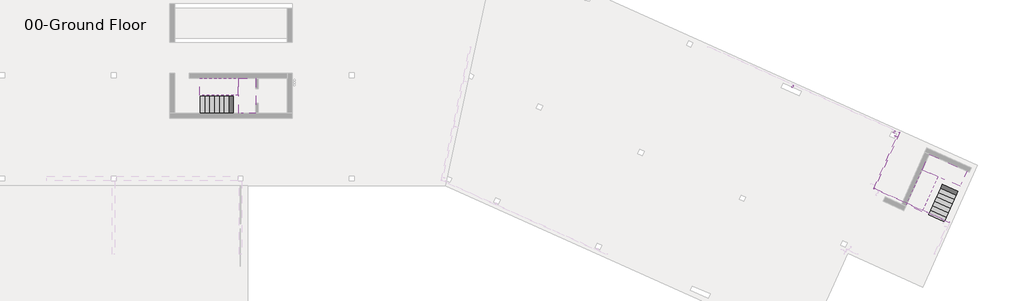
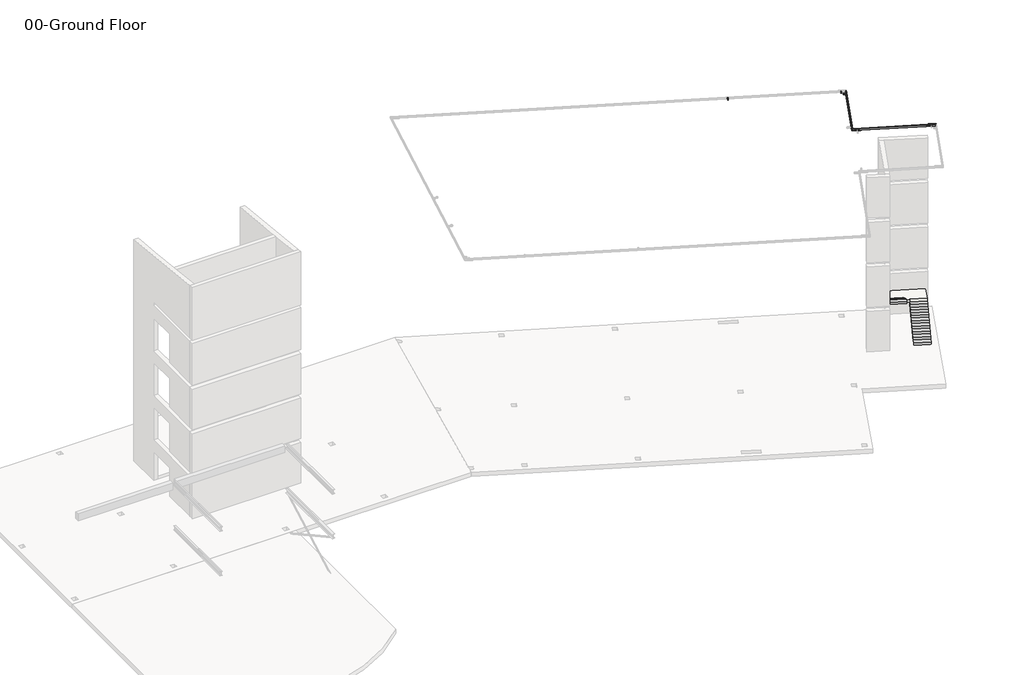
# One storey, part 5 of 5: 5 beams, 4 stair flights, 2 slabs.
"""IFC4 building model written with IfcOpenShell, lengths in millimetres."""

from ifc_helpers import new_model, si_unit, frame, origin, place, context, project, spatial, polyline, ellipse_curve, faceted_brep, transform, mapped, element, save
from ifc_brep_helpers import plane_surface, cylinder_surface, revolved_surface, advanced_brep
from components import hss_hollow_structural_section_hss3x2x1_8_a8fac2c2, hss_hollow_structural_section_hss3x2x1_8_4cf7df58, hss_hollow_structural_section_hss3x2x1_8_9bae5ac0

model = new_model("IFC4")

# Units and contexts
model_context = context("Model", 3, world=origin())
ifc_project = project(units=[si_unit("LENGTHUNIT", "METRE", prefix="MILLI")], contexts=[model_context])

# Site, building, storey
site = spatial("IfcSite", under=ifc_project)
building = spatial("IfcBuilding", under=site)
storey = spatial("IfcBuildingStorey", under=building, Name="00-Ground Floor", Elevation=0.0)

# Beams
placement = place(None, origin())
hss_hollow_structural_section_hss3x2x1_8_shape = hss_hollow_structural_section_hss3x2x1_8_a8fac2c2(model_context)
element("IfcBeam", 1, ObjectType="HSS-Hollow Structural Section : HSS3X2X1/8", at=placement, inside=storey, context=model_context, shape_type="MappedRepresentation", body=[
    mapped(hss_hollow_structural_section_hss3x2x1_8_shape, transform((56149.9496224, -11115.2429491, 16658.2302755), x_axis=(0.40919454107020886, 0.9109449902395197, 0.05233595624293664), y_axis=(-0.9121951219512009, 0.40975609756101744, 0.0), z_axis=(-0.021444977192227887, -0.04774060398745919, 0.9986295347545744))),
])
hss_hollow_structural_section_hss3x2x1_8_2_shape = hss_hollow_structural_section_hss3x2x1_8_4cf7df58(model_context)
element("IfcBeam", 2, ObjectType="HSS-Hollow Structural Section : HSS3X2X1/8", at=placement, inside=storey, context=model_context, shape_type="MappedRepresentation", body=[
    mapped(hss_hollow_structural_section_hss3x2x1_8_2_shape, transform((49758.4300196, -8235.2687316, 16658.6565762), x_axis=(0.40919454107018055, 0.9109449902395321, 0.052335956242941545), y_axis=(-0.9121951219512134, 0.40975609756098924, 0.0), z_axis=(-0.021444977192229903, -0.047740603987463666, 0.998629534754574))),
])
hss_hollow_structural_section_hss3x2x1_8_3_shape = hss_hollow_structural_section_hss3x2x1_8_9bae5ac0(model_context)
element("IfcBeam", 3, ObjectType="HSS-Hollow Structural Section : HSS3X2X1/8", at=placement, inside=storey, context=model_context, shape_type="MappedRepresentation", body=[
    mapped(hss_hollow_structural_section_hss3x2x1_8_3_shape, transform((56223.3592947, -11323.7476071, 16649.8389058), x_axis=(0.9121951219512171, -0.4097560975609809, 0.0), y_axis=(0.40919454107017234, 0.9109449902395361, 0.052335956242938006), z_axis=(-0.021444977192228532, -0.0477406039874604, 0.9986295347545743))),
])
element("IfcBeam", 4, ObjectType="HSS-Hollow Structural Section : HSS5X2X1/8", at=placement, inside=storey, context=model_context, shape_type="AdvancedBrep", body=[
    advanced_brep(
    [(54925.8991442, -14631.6764659, 16501.9897587), (54933.8122002, -14628.4417342, 16496.4134399), (56526.4681746, -11082.8861722, 16700.1140396), (56518.5551186, -11086.120904, 16705.6903584), (54874.3459194, -14651.2300499, 16499.9479028), (56467.0018937, -11105.6744879, 16703.6485024), (54866.6856053, -14653.90213, 16493.7547733), (56459.3415797, -11108.346568, 16697.455373), (54869.1563755, -14648.4017249, 16378.6982707), (56461.8123499, -11102.8461629, 16582.3988703), (54877.0694315, -14645.1669932, 16373.1219519), (56469.7254058, -11099.6114312, 16576.8225515), (54928.6226563, -14625.6134092, 16375.1638078), (56521.2786307, -11080.0578473, 16578.8644074), (54936.2829704, -14622.9413292, 16381.3569373), (56528.9389447, -11077.3857672, 16585.0575369), (54925.9623297, -14631.535803, 16499.0473967), (54874.4091048, -14651.089387, 16497.0055407), (56467.0650792, -11105.533825, 16700.7061404), (56518.6183041, -11085.980241, 16702.7479963), (54929.9188577, -14629.9184372, 16496.2592373), (56522.5748321, -11084.3628752, 16699.9598369), (54932.3896279, -14624.4180321, 16381.2027346), (56525.0456022, -11078.8624701, 16584.9033342), (54928.5594708, -14625.7540722, 16378.1061699), (56521.2154452, -11080.1985102, 16581.8067695), (54877.006246, -14645.3076561, 16376.0643139), (56469.6622203, -11099.7520941, 16579.7649136), (54873.049718, -14646.925022, 16378.8524733), (56465.7056924, -11101.36946, 16582.553073), (54870.5789478, -14652.425427, 16493.908976), (56463.2349222, -11106.869865, 16697.6095756)],
    [
        (0, 1, ellipse_curve(frame((54926.0255152, -14631.3951401, 16496.1050346), z_axis=(-0.3556751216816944, 0.93387669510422, 0.0370071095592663), x_axis=(-0.934363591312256, -0.3543940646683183, -0.037007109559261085)), 8.3336777, 5.8928)),
        (1, 2),
        (2, 3, ellipse_curve(frame((56518.6814896, -11085.8395781, 16699.8056342), z_axis=(0.35567512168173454, -0.9338766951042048, -0.037007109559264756), x_axis=(-0.9343635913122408, -0.3543940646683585, -0.03700710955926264)), 8.3336777, 5.8928)),
        (3, 0),
        (4, 0),
        (3, 5),
        (5, 4),
        (6, 4, ellipse_curve(frame((54874.4722903, -14650.948724, 16494.0631787), z_axis=(-0.3556751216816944, 0.93387669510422, 0.0370071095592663), x_axis=(-0.934363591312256, -0.3543940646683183, -0.037007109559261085)), 8.3336777, 5.8928)),
        (5, 7, ellipse_curve(frame((56467.1282647, -11105.3931621, 16697.7637783), z_axis=(0.35567512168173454, -0.9338766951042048, -0.037007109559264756), x_axis=(-0.9343635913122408, -0.3543940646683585, -0.03700710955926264)), 8.3336777, 5.8928)),
        (7, 6),
        (8, 6),
        (7, 9),
        (9, 8),
        (10, 8, ellipse_curve(frame((54876.9430605, -14645.448319, 16379.006676), z_axis=(-0.3556751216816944, 0.93387669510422, 0.0370071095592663), x_axis=(-0.934363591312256, -0.3543940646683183, -0.037007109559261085)), 8.3336777, 5.8928)),
        (9, 11, ellipse_curve(frame((56469.5990349, -11099.892757, 16582.7072756), z_axis=(0.35567512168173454, -0.9338766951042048, -0.037007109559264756), x_axis=(-0.9343635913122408, -0.3543940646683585, -0.03700710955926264)), 8.3336777, 5.8928)),
        (11, 10),
        (12, 10),
        (11, 13),
        (13, 12),
        (14, 12, ellipse_curve(frame((54928.4962854, -14625.8947351, 16381.0485319), z_axis=(-0.3556751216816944, 0.93387669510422, 0.0370071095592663), x_axis=(-0.934363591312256, -0.3543940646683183, -0.037007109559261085)), 8.3336777, 5.8928)),
        (13, 15, ellipse_curve(frame((56521.1522597, -11080.3391731, 16584.7491316), z_axis=(0.35567512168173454, -0.9338766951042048, -0.037007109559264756), x_axis=(-0.9343635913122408, -0.3543940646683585, -0.03700710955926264)), 8.3336777, 5.8928)),
        (15, 14),
        (1, 14),
        (15, 2),
        (16, 17),
        (17, 18),
        (18, 19),
        (19, 16),
        (20, 16, ellipse_curve(frame((54926.0255152, -14631.3951401, 16496.1050346), z_axis=(0.3556751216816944, -0.93387669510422, -0.0370071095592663), x_axis=(0.934363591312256, 0.3543940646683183, 0.037007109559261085)), 4.1668388, 2.9464)),
        (19, 21, ellipse_curve(frame((56518.6814896, -11085.8395781, 16699.8056342), z_axis=(-0.35567512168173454, 0.9338766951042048, 0.037007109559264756), x_axis=(0.9343635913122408, 0.3543940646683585, 0.03700710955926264)), 4.1668388, 2.9464)),
        (21, 20),
        (22, 20),
        (21, 23),
        (23, 22),
        (24, 22, ellipse_curve(frame((54928.4962854, -14625.8947351, 16381.0485319), z_axis=(0.3556751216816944, -0.93387669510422, -0.0370071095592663), x_axis=(0.934363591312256, 0.3543940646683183, 0.037007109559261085)), 4.1668388, 2.9464)),
        (23, 25, ellipse_curve(frame((56521.1522597, -11080.3391731, 16584.7491316), z_axis=(-0.35567512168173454, 0.9338766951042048, 0.037007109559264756), x_axis=(0.9343635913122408, 0.3543940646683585, 0.03700710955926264)), 4.1668388, 2.9464)),
        (25, 24),
        (26, 24),
        (25, 27),
        (27, 26),
        (28, 26, ellipse_curve(frame((54876.9430605, -14645.448319, 16379.006676), z_axis=(0.3556751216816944, -0.93387669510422, -0.0370071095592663), x_axis=(0.934363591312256, 0.3543940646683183, 0.037007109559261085)), 4.1668388, 2.9464)),
        (27, 29, ellipse_curve(frame((56469.5990349, -11099.892757, 16582.7072756), z_axis=(-0.35567512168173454, 0.9338766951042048, 0.037007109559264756), x_axis=(0.9343635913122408, 0.3543940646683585, 0.03700710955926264)), 4.1668388, 2.9464)),
        (29, 28),
        (30, 28),
        (29, 31),
        (31, 30),
        (17, 30, ellipse_curve(frame((54874.4722903, -14650.948724, 16494.0631787), z_axis=(0.3556751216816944, -0.93387669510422, -0.0370071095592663), x_axis=(0.934363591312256, 0.3543940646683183, 0.037007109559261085)), 4.1668388, 2.9464)),
        (31, 18, ellipse_curve(frame((56467.1282647, -11105.3931621, 16697.7637783), z_axis=(-0.35567512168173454, 0.9338766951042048, 0.037007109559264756), x_axis=(0.9343635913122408, 0.3543940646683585, 0.03700710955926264)), 4.1668388, 2.9464)),
    ],
    [
        cylinder_surface(frame((54918.0432754, -14649.1651262, 16495.0841066), z_axis=(-0.40919454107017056, -0.9109449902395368, -0.05233595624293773), x_axis=(-0.9121951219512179, 0.40975609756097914, 0.0)), 5.8928),
        plane_surface(frame((54917.9169045, -14649.4464521, 16500.9688308), z_axis=(-0.021444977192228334, -0.04774060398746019, 0.9986295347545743), x_axis=(0.4091945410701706, 0.9109449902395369, 0.052335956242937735))),
        cylinder_surface(frame((54882.4545301, -14633.1787379, 16495.0841066), z_axis=(-0.40919454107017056, -0.9109449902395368, -0.05233595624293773), x_axis=(-0.9121951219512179, 0.40975609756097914, 0.0)), 5.8928),
        plane_surface(frame((54877.0791467, -14630.7641272, 16495.0841066), z_axis=(-0.9121951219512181, 0.40975609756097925, 0.0), x_axis=(0.4091945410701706, 0.9109449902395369, 0.052335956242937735))),
        cylinder_surface(frame((54884.9253002, -14627.6783329, 16380.027604), z_axis=(-0.40919454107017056, -0.9109449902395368, -0.05233595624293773), x_axis=(-0.9121951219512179, 0.40975609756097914, 0.0)), 5.8928),
        plane_surface(frame((54885.0516712, -14627.3970071, 16374.1428798), z_axis=(0.021444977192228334, 0.04774060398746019, -0.9986295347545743), x_axis=(0.4091945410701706, 0.9109449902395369, 0.052335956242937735))),
        cylinder_surface(frame((54920.5140456, -14643.6647212, 16380.027604), z_axis=(-0.40919454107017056, -0.9109449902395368, -0.05233595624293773), x_axis=(-0.9121951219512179, 0.40975609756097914, 0.0)), 5.8928),
        plane_surface(frame((54925.889429, -14646.0793319, 16380.027604), z_axis=(0.9121951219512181, -0.40975609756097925, 0.0), x_axis=(0.4091945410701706, 0.9109449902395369, 0.052335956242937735))),
        plane_surface(frame((54882.3913446, -14633.3194009, 16498.0264687), z_axis=(0.021444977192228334, 0.04774060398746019, -0.9986295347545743), x_axis=(0.4091945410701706, 0.9109449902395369, 0.052335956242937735))),
        revolved_surface(polyline([(56517.19944861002, -11081.948264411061, 16699.959836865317), (54922.13217266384, -14632.8718430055, 16495.950831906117)]), (54918.0432754, -14649.1651262, 16495.0841066), (0.40919454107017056, 0.9109449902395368, 0.05233595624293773)),
        plane_surface(frame((54920.7309671, -14650.3724316, 16495.0841066), z_axis=(-0.9121951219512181, 0.40975609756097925, 0.0), x_axis=(0.4091945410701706, 0.9109449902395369, 0.052335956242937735))),
        revolved_surface(polyline([(56519.670218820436, -11076.447859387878, 16584.903334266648), (54924.6029428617, -14627.37143801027, 16380.894329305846)]), (54920.5140456, -14643.6647212, 16380.027604), (0.40919454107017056, 0.9109449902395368, 0.05233595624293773)),
        plane_surface(frame((54920.5772311, -14643.5240583, 16377.0852419), z_axis=(-0.021444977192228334, -0.04774060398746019, 0.9986295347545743), x_axis=(0.4091945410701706, 0.9109449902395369, 0.052335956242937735))),
        revolved_surface(polyline([(56468.11699391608, -11096.001443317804, 16582.86147833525), (54873.0497179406, -14646.92502197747, 16378.852473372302)]), (54884.9253002, -14627.6783329, 16380.027604), (0.40919454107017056, 0.9109449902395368, 0.05233595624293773)),
        plane_surface(frame((54882.2376085, -14626.4710275, 16380.027604), z_axis=(0.9121951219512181, -0.40975609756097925, 0.0), x_axis=(0.4091945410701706, 0.9109449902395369, 0.052335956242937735))),
        revolved_surface(polyline([(56465.64622376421, -11101.501848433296, 16697.91798092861), (54870.578947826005, -14652.425427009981, 16493.908975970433)]), (54882.4545301, -14633.1787379, 16495.0841066), (0.40919454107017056, 0.9109449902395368, 0.05233595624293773)),
        plane_surface(frame((56457.5811015, -11112.2657278, 16779.4356677), z_axis=(-0.3556751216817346, 0.933876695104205, 0.03700710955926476), x_axis=(0.9346096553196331, 0.35539618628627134, 0.014083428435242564))),
        plane_surface(frame((54932.051722, -14632.3608941, 16578.3937346), z_axis=(0.35567512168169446, -0.9338766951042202, -0.03700710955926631), x_axis=(0.9346096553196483, 0.35539618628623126, 0.01408342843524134))),
    ],
    [
        (0, [[1, 2, 3, 4]]),
        (1, [[5, -4, 6, 7]]),
        (2, [[8, -7, 9, 10]]),
        (3, [[11, -10, 12, 13]]),
        (4, [[14, -13, 15, 16]]),
        (5, [[17, -16, 18, 19]]),
        (6, [[20, -19, 21, 22]]),
        (7, [[23, -22, 24, -2]]),
        (8, [[25, 26, 27, 28]]),
        (9, [[29, -28, 30, 31]]),
        (10, [[32, -31, 33, 34]]),
        (11, [[35, -34, 36, 37]]),
        (12, [[38, -37, 39, 40]]),
        (13, [[41, -40, 42, 43]]),
        (14, [[44, -43, 45, 46]]),
        (15, [[47, -46, 48, -26]]),
        (16, [[-24, -21, -18, -15, -12, -9, -6, -3], [-48, -45, -42, -39, -36, -33, -30, -27]]),
        (17, [[-1, -5, -8, -11, -14, -17, -20, -23], [-25, -29, -32, -35, -38, -41, -44, -47]]),
    ],
),
])
element("IfcBeam", 5, ObjectType="HSS-Hollow Structural Section : HSS5X2X1/8", at=placement, inside=storey, context=model_context, shape_type="AdvancedBrep", body=[
    advanced_brep(
    [(59652.5293881, -16754.8686611, 16501.9897587), (59660.4424441, -16751.6339293, 16496.4134399), (54933.8122002, -14628.4417342, 16496.4134399), (54925.8991442, -14631.6764659, 16501.9897587), (59600.9761633, -16774.422245, 16499.9479028), (54874.3459194, -14651.2300499, 16499.9479028), (59593.3158492, -16777.0943251, 16493.7547733), (54866.6856053, -14653.90213, 16493.7547733), (59595.7866194, -16771.59392, 16378.6982707), (54869.1563755, -14648.4017249, 16378.6982707), (59603.6996754, -16768.3591883, 16373.1219519), (54877.0694315, -14645.1669932, 16373.1219519), (59655.2529002, -16748.8056044, 16375.1638078), (54928.6226563, -14625.6134092, 16375.1638078), (59662.9132143, -16746.1335243, 16381.3569373), (54936.2829704, -14622.9413292, 16381.3569373), (59652.5925736, -16754.7279982, 16499.0473967), (59601.0393487, -16774.2815821, 16497.0055407), (54874.4091048, -14651.089387, 16497.0055407), (54925.9623297, -14631.535803, 16499.0473967), (59656.5491016, -16753.1106323, 16496.2592373), (54929.9188577, -14629.9184372, 16496.2592373), (59659.0198718, -16747.6102272, 16381.2027346), (54932.3896279, -14624.4180321, 16381.2027346), (59655.1897147, -16748.9462673, 16378.1061699), (54928.5594708, -14625.7540722, 16378.1061699), (59603.6364899, -16768.4998512, 16376.0643139), (54877.006246, -14645.3076561, 16376.0643139), (59599.6799619, -16770.1172171, 16378.8524733), (54873.049718, -14646.925022, 16378.8524733), (59597.2091917, -16775.6176221, 16493.908976), (54870.5789478, -14652.425427, 16493.908976)],
    [
        (0, 1, ellipse_curve(frame((59652.6557591, -16754.5873352, 16496.1050346), z_axis=(-0.35567512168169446, 0.93387669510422, 0.03700710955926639), x_axis=(0.9343635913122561, 0.35439406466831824, 0.037007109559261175)), 8.3336777, 5.8928)),
        (1, 2),
        (2, 3, ellipse_curve(frame((54926.0255152, -14631.3951401, 16496.1050346), z_axis=(0.3556751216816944, -0.93387669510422, -0.0370071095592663), x_axis=(0.9343635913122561, 0.35439406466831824, 0.037007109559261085)), 8.3336777, 5.8928)),
        (3, 0),
        (4, 0),
        (3, 5),
        (5, 4),
        (6, 4, ellipse_curve(frame((59601.1025342, -16774.1409192, 16494.0631787), z_axis=(-0.35567512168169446, 0.93387669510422, 0.03700710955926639), x_axis=(0.9343635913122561, 0.35439406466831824, 0.037007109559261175)), 8.3336777, 5.8928)),
        (5, 7, ellipse_curve(frame((54874.4722903, -14650.948724, 16494.0631787), z_axis=(0.3556751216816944, -0.93387669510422, -0.0370071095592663), x_axis=(0.9343635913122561, 0.35439406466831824, 0.037007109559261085)), 8.3336777, 5.8928)),
        (7, 6),
        (8, 6),
        (7, 9),
        (9, 8),
        (10, 8, ellipse_curve(frame((59603.5733044, -16768.6405141, 16379.006676), z_axis=(-0.35567512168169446, 0.93387669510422, 0.03700710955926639), x_axis=(0.9343635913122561, 0.35439406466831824, 0.037007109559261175)), 8.3336777, 5.8928)),
        (9, 11, ellipse_curve(frame((54876.9430605, -14645.448319, 16379.006676), z_axis=(0.3556751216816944, -0.93387669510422, -0.0370071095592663), x_axis=(0.9343635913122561, 0.35439406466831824, 0.037007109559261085)), 8.3336777, 5.8928)),
        (11, 10),
        (12, 10),
        (11, 13),
        (13, 12),
        (14, 12, ellipse_curve(frame((59655.1265293, -16749.0869302, 16381.0485319), z_axis=(-0.35567512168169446, 0.93387669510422, 0.03700710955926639), x_axis=(0.9343635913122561, 0.35439406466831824, 0.037007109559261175)), 8.3336777, 5.8928)),
        (13, 15, ellipse_curve(frame((54928.4962854, -14625.8947351, 16381.0485319), z_axis=(0.3556751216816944, -0.93387669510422, -0.0370071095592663), x_axis=(0.9343635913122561, 0.35439406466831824, 0.037007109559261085)), 8.3336777, 5.8928)),
        (15, 14),
        (1, 14),
        (15, 2),
        (16, 17),
        (17, 18),
        (18, 19),
        (19, 16),
        (20, 16, ellipse_curve(frame((59652.6557591, -16754.5873352, 16496.1050346), z_axis=(0.35567512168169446, -0.93387669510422, -0.03700710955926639), x_axis=(-0.9343635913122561, -0.35439406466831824, -0.037007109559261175)), 4.1668388, 2.9464)),
        (19, 21, ellipse_curve(frame((54926.0255152, -14631.3951401, 16496.1050346), z_axis=(-0.3556751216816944, 0.93387669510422, 0.0370071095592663), x_axis=(-0.9343635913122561, -0.35439406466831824, -0.037007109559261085)), 4.1668388, 2.9464)),
        (21, 20),
        (22, 20),
        (21, 23),
        (23, 22),
        (24, 22, ellipse_curve(frame((59655.1265293, -16749.0869302, 16381.0485319), z_axis=(0.35567512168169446, -0.93387669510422, -0.03700710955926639), x_axis=(-0.9343635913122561, -0.35439406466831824, -0.037007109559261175)), 4.1668388, 2.9464)),
        (23, 25, ellipse_curve(frame((54928.4962854, -14625.8947351, 16381.0485319), z_axis=(-0.3556751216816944, 0.93387669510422, 0.0370071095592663), x_axis=(-0.9343635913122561, -0.35439406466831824, -0.037007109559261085)), 4.1668388, 2.9464)),
        (25, 24),
        (26, 24),
        (25, 27),
        (27, 26),
        (28, 26, ellipse_curve(frame((59603.5733044, -16768.6405141, 16379.006676), z_axis=(0.35567512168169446, -0.93387669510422, -0.03700710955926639), x_axis=(-0.9343635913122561, -0.35439406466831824, -0.037007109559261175)), 4.1668388, 2.9464)),
        (27, 29, ellipse_curve(frame((54876.9430605, -14645.448319, 16379.006676), z_axis=(-0.3556751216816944, 0.93387669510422, 0.0370071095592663), x_axis=(-0.9343635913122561, -0.35439406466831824, -0.037007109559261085)), 4.1668388, 2.9464)),
        (29, 28),
        (30, 28),
        (29, 31),
        (31, 30),
        (17, 30, ellipse_curve(frame((59601.1025342, -16774.1409192, 16494.0631787), z_axis=(0.35567512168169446, -0.93387669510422, -0.03700710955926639), x_axis=(-0.9343635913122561, -0.35439406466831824, -0.037007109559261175)), 4.1668388, 2.9464)),
        (31, 18, ellipse_curve(frame((54874.4722903, -14650.948724, 16494.0631787), z_axis=(-0.3556751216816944, 0.93387669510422, 0.0370071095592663), x_axis=(-0.9343635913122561, -0.35439406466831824, -0.037007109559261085)), 4.1668388, 2.9464)),
    ],
    [
        cylinder_surface(frame((59634.8613864, -16746.5941411, 16496.1050346), z_axis=(0.9121951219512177, -0.4097560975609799, 0.0), x_axis=(-0.40919454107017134, -0.9109449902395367, -0.05233595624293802)), 5.8928),
        plane_surface(frame((59634.7350154, -16746.8754669, 16501.9897587), z_axis=(-0.02144497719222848, -0.047740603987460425, 0.9986295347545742), x_axis=(-0.9121951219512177, 0.4097560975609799, 0.0))),
        cylinder_surface(frame((59618.8969069, -16782.1341133, 16494.0631787), z_axis=(0.9121951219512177, -0.4097560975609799, 0.0), x_axis=(-0.40919454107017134, -0.9109449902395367, -0.05233595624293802)), 5.8928),
        plane_surface(frame((59616.4856053, -16787.50213, 16493.7547733), z_axis=(-0.40919454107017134, -0.9109449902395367, -0.05233595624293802), x_axis=(-0.9121951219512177, 0.4097560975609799, 0.0))),
        cylinder_surface(frame((59621.3676771, -16776.6337083, 16379.006676), z_axis=(0.9121951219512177, -0.4097560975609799, 0.0), x_axis=(-0.40919454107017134, -0.9109449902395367, -0.05233595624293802)), 5.8928),
        plane_surface(frame((59621.494048, -16776.3523824, 16373.1219519), z_axis=(0.02144497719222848, 0.047740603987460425, -0.9986295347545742), x_axis=(-0.9121951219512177, 0.4097560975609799, 0.0))),
        cylinder_surface(frame((59637.3321566, -16741.093736, 16381.0485319), z_axis=(0.9121951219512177, -0.4097560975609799, 0.0), x_axis=(-0.40919454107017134, -0.9109449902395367, -0.05233595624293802)), 5.8928),
        plane_surface(frame((59639.7434582, -16735.7257194, 16381.3569373), z_axis=(0.40919454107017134, 0.9109449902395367, 0.05233595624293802), x_axis=(-0.9121951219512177, 0.4097560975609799, 0.0))),
        plane_surface(frame((59618.8337214, -16782.2747762, 16497.0055407), z_axis=(0.02144497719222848, 0.047740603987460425, -0.9986295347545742), x_axis=(-0.9121951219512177, 0.4097560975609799, 0.0))),
        revolved_surface(polyline([(54922.13217271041, -14632.871843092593, 16495.950831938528), (59654.13780000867, -16758.47864893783, 16495.950831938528)]), (59634.8613864, -16746.5941411, 16496.1050346), (-0.9121951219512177, 0.4097560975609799, 0.0)),
        plane_surface(frame((59636.0670372, -16743.9101328, 16496.2592373), z_axis=(-0.40919454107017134, -0.9109449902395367, -0.05233595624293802), x_axis=(-0.9121951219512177, 0.4097560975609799, 0.0))),
        revolved_surface(polyline([(54924.60294294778, -14627.37143800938, 16380.894329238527), (59656.60857020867, -16752.97824383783, 16380.894329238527)]), (59637.3321566, -16741.093736, 16381.0485319), (-0.9121951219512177, 0.4097560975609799, 0.0)),
        plane_surface(frame((59637.3953421, -16740.9530731, 16378.1061699), z_axis=(-0.02144497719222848, -0.047740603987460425, 0.9986295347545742), x_axis=(-0.9121951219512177, 0.4097560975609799, 0.0))),
        revolved_surface(polyline([(54873.04971800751, -14646.925021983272, 16378.852473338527), (59605.0553452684, -16772.53182781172, 16378.852473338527)]), (59621.3676771, -16776.6337083, 16379.006676), (-0.9121951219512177, 0.4097560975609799, 0.0)),
        plane_surface(frame((59620.1620263, -16779.3177166, 16378.8524733), z_axis=(0.40919454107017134, 0.9109449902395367, 0.05233595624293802), x_axis=(-0.9121951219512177, 0.4097560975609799, 0.0))),
        revolved_surface(polyline([(54870.57894780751, -14652.42542698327, 16493.908976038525), (59602.58457510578, -16778.032232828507, 16493.908976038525)]), (59618.8969069, -16782.1341133, 16494.0631787), (-0.9121951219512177, 0.4097560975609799, 0.0)),
        plane_surface(frame((54932.051722, -14632.3608941, 16578.3937346), z_axis=(-0.35567512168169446, 0.9338766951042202, 0.03700710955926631), x_axis=(0.9346096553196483, 0.35539618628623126, 0.01408342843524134))),
        plane_surface(frame((59591.555371, -16781.0134849, 16575.735068), z_axis=(0.3556751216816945, -0.9338766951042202, -0.0370071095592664), x_axis=(0.9346096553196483, 0.35539618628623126, 0.014083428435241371))),
    ],
    [
        (0, [[1, 2, 3, 4]]),
        (1, [[5, -4, 6, 7]]),
        (2, [[8, -7, 9, 10]]),
        (3, [[11, -10, 12, 13]]),
        (4, [[14, -13, 15, 16]]),
        (5, [[17, -16, 18, 19]]),
        (6, [[20, -19, 21, 22]]),
        (7, [[23, -22, 24, -2]]),
        (8, [[25, 26, 27, 28]]),
        (9, [[29, -28, 30, 31]]),
        (10, [[32, -31, 33, 34]]),
        (11, [[35, -34, 36, 37]]),
        (12, [[38, -37, 39, 40]]),
        (13, [[41, -40, 42, 43]]),
        (14, [[44, -43, 45, 46]]),
        (15, [[47, -46, 48, -26]]),
        (16, [[-24, -21, -18, -15, -12, -9, -6, -3], [-48, -45, -42, -39, -36, -33, -30, -27]]),
        (17, [[-1, -5, -8, -11, -14, -17, -20, -23], [-25, -29, -32, -35, -38, -41, -44, -47]]),
    ],
),
])

# Slabs
element("IfcSlab", 6, ObjectType="7\" Thickness", at=placement, inside=storey, context=model_context, shape_type="Brep", body=[
    faceted_brep([(14884.4, -8826.5, 1775.0117647), (14903.45, -8826.5, 1775.0117647), (14903.45, -9893.3, 1775.0117647), (15167.2458186, -9893.3, 1775.0117647), (15951.2, -9893.3, 1775.0117647), (15951.2, -7690.4581651, 1775.0117647), (14906.3541814, -7690.4581651, 1775.0117647), (14884.4, -7690.4581651, 1775.0117647), (14865.35, -7690.4581651, 1775.0117647), (14865.35, -8757.2581651, 1775.0117647), (14884.4, -8757.2581651, 1775.0117647), (14884.4, -8826.5, 1597.2117647), (14903.45, -8826.5, 1597.2117647), (14903.45, -8826.5, 1577.7882353), (14903.45, -8826.5, 1426.5203527), (14903.45, -9893.3, 1426.5203527), (14903.45, -9893.3, 1577.7882353), (15167.2458186, -9893.3, 1597.2117647), (15951.2, -9893.3, 1597.2117647), (15951.2, -7690.4581651, 1597.2117647), (14906.3541814, -7690.4581651, 1597.2117647), (14884.4, -7690.4581651, 1611.4174115), (14865.35, -7690.4581651, 1623.7438821), (14865.35, -8757.2581651, 1623.7438821), (14884.4, -8757.2581651, 1611.4174115), (14884.4, -8757.2581651, 1597.2117647), (14906.3541814, -8757.2581651, 1597.2117647), (15167.2458186, -8826.5, 1597.2117647)], [[[0, 1, 2, 3, 4, 5, 6, 7, 8, 9, 10]], [[1, 0, 11, 12]], [[2, 1, 12, 13, 14, 15, 16]], [[2, 16, 15, 17, 18, 4, 3]], [[5, 4, 18, 19]], [[5, 19, 20, 21, 7, 6]], [[8, 7, 21, 22]], [[9, 8, 22, 23]], [[10, 9, 23, 24]], [[0, 10, 24, 25, 11]], [[25, 26, 20, 19, 18, 17, 27, 12, 11]], [[26, 25, 24]], [[27, 17, 15, 14]], [[12, 27, 14, 13]], [[20, 26, 24, 23, 22, 21]]]),
])
element("IfcSlab", 7, ObjectType="7\" Thickness", at=placement, inside=storey, context=model_context, shape_type="Brep", body=[
    faceted_brep([(59335.95414, -14064.6614634, 1775.0117647), (59343.7599937, -14047.2841463, 1775.0117647), (60316.8897498, -14484.4119512, 1775.0117647), (60424.981695, -14243.7786923, 1775.0117647), (60746.211701, -13528.6595122, 1775.0117647), (58382.896579, -12467.0634146, 1775.0117647), (57954.7646338, -13420.1666736, 1775.0117647), (57945.7687742, -13440.1931707, 1775.0117647), (57937.9629205, -13457.5704878, 1775.0117647), (58911.0926766, -13894.6982927, 1775.0117647), (58918.8985303, -13877.3209756, 1775.0117647), (59335.95414, -14064.6614634, 1597.2117647), (59343.7599937, -14047.2841463, 1597.2117647), (59343.7599937, -14047.2841463, 1577.7882353), (59343.7599937, -14047.2841463, 1426.5203527), (60316.8897498, -14484.4119512, 1426.5203527), (60316.8897498, -14484.4119512, 1577.7882353), (60424.981695, -14243.7786923, 1597.2117647), (60746.211701, -13528.6595122, 1597.2117647), (58382.896579, -12467.0634146, 1597.2117647), (57954.7646338, -13420.1666736, 1597.2117647), (57945.7687742, -13440.1931707, 1611.4174115), (57937.9629205, -13457.5704878, 1623.7438821), (58911.0926766, -13894.6982927, 1623.7438821), (58918.8985303, -13877.3209756, 1611.4174115), (58918.8985303, -13877.3209756, 1597.2117647), (58927.8943899, -13857.2944785, 1597.2117647), (59451.8519389, -13806.6508874, 1597.2117647)], [[[0, 1, 2, 3, 4, 5, 6, 7, 8, 9, 10]], [[1, 0, 11, 12]], [[2, 1, 12, 13, 14, 15, 16]], [[2, 16, 15, 17, 18, 4, 3]], [[5, 4, 18, 19]], [[5, 19, 20, 21, 7, 6]], [[8, 7, 21, 22]], [[9, 8, 22, 23]], [[10, 9, 23, 24]], [[0, 10, 24, 25, 11]], [[25, 26, 20, 19, 18, 17, 27, 12, 11]], [[26, 25, 24]], [[27, 17, 15, 14]], [[12, 27, 14, 13]], [[20, 26, 24, 23, 22, 21]]]),
])

# Stair flights
element("IfcStairFlight", 8, ObjectType="3/4\" Nosing", at=placement, inside=storey, context=model_context, shape_type="Brep", body=[
    faceted_brep([(12769.85, -8826.5, 197.2235294), (12465.05, -8826.5, 197.2235294), (12465.05, -9893.3, 197.2235294), (12769.85, -9893.3, 197.2235294), (12769.85, -8826.5, 45.9556468), (12698.8276368, -8826.5, 0.0), (12465.05, -8826.5, 0.0), (12465.05, -9893.3, 0.0), (12698.8276368, -9893.3, 0.0), (12769.85, -9893.3, 45.9556468), (13074.65, -8826.5, 394.4470588), (12769.85, -8826.5, 394.4470588), (12769.85, -9893.3, 394.4470588), (13074.65, -9893.3, 394.4470588), (13074.65, -8826.5, 243.1791762), (13074.65, -9893.3, 243.1791762), (13379.45, -8826.5, 591.6705882), (13074.65, -8826.5, 591.6705882), (13074.65, -9893.3, 591.6705882), (13379.45, -9893.3, 591.6705882), (13379.45, -8826.5, 440.4027056), (13379.45, -9893.3, 440.4027056), (13684.25, -8826.5, 788.8941176), (13379.45, -8826.5, 788.8941176), (13379.45, -9893.3, 788.8941176), (13684.25, -9893.3, 788.8941176), (13684.25, -8826.5, 637.626235), (13684.25, -9893.3, 637.626235), (13989.05, -8826.5, 986.1176471), (13684.25, -8826.5, 986.1176471), (13684.25, -9893.3, 986.1176471), (13989.05, -9893.3, 986.1176471), (13989.05, -8826.5, 834.8497644), (13989.05, -9893.3, 834.8497644), (14293.85, -8826.5, 1183.3411765), (13989.05, -8826.5, 1183.3411765), (13989.05, -9893.3, 1183.3411765), (14293.85, -9893.3, 1183.3411765), (14293.85, -8826.5, 1032.0732938), (14293.85, -9893.3, 1032.0732938), (14598.65, -8826.5, 1380.5647059), (14293.85, -8826.5, 1380.5647059), (14293.85, -9893.3, 1380.5647059), (14598.65, -9893.3, 1380.5647059), (14598.65, -8826.5, 1229.2968232), (14598.65, -9893.3, 1229.2968232), (14903.45, -8826.5, 1577.7882353), (14598.65, -8826.5, 1577.7882353), (14598.65, -9893.3, 1577.7882353), (14884.4, -9893.3, 1577.7882353), (14903.45, -9893.3, 1577.7882353), (14903.45, -8826.5, 1426.5203527), (14884.4, -9893.3, 1414.1938821), (14903.45, -9893.3, 1426.5203527)], [[[0, 1, 2, 3]], [[1, 0, 4, 5, 6]], [[2, 1, 6, 7]], [[3, 2, 7, 8, 9]], [[10, 11, 12, 13]], [[11, 10, 14, 4, 0]], [[0, 3, 12, 11]], [[13, 12, 3, 9, 15]], [[16, 17, 18, 19]], [[17, 16, 20, 14, 10]], [[10, 13, 18, 17]], [[19, 18, 13, 15, 21]], [[22, 23, 24, 25]], [[23, 22, 26, 20, 16]], [[16, 19, 24, 23]], [[25, 24, 19, 21, 27]], [[28, 29, 30, 31]], [[29, 28, 32, 26, 22]], [[22, 25, 30, 29]], [[31, 30, 25, 27, 33]], [[34, 35, 36, 37]], [[35, 34, 38, 32, 28]], [[28, 31, 36, 35]], [[37, 36, 31, 33, 39]], [[40, 41, 42, 43]], [[41, 40, 44, 38, 34]], [[34, 37, 42, 41]], [[43, 42, 37, 39, 45]], [[46, 47, 48, 49, 50]], [[47, 46, 51, 44, 40]], [[40, 43, 48, 47]], [[49, 48, 43, 45, 52]], [[46, 50, 53, 51]], [[7, 6, 5, 8]], [[8, 5, 4, 14, 20, 26, 32, 38, 44, 51, 53, 52, 45, 39, 33, 27, 21, 15, 9]], [[50, 49, 52, 53]]]),
])
element("IfcStairFlight", 9, ObjectType="3/4\" Nosing", at=placement, inside=storey, context=model_context, shape_type="Brep", body=[
    faceted_brep([(14560.55, -8757.2581651, 1972.2352941), (14865.35, -8757.2581651, 1972.2352941), (14865.35, -7690.4581651, 1972.2352941), (14560.55, -7690.4581651, 1972.2352941), (14560.55, -8757.2581651, 1820.9674115), (14865.35, -8757.2581651, 1623.7438821), (14865.35, -8757.2581651, 1775.0117647), (14865.35, -7690.4581651, 1623.7438821), (14865.35, -7690.4581651, 1775.0117647), (14560.55, -7690.4581651, 1820.9674115), (14255.75, -8757.2581651, 2169.4588235), (14560.55, -8757.2581651, 2169.4588235), (14560.55, -7690.4581651, 2169.4588235), (14255.75, -7690.4581651, 2169.4588235), (14255.75, -8757.2581651, 2018.1909409), (14255.75, -7690.4581651, 2018.1909409), (13950.95, -8757.2581651, 2366.6823529), (14255.75, -8757.2581651, 2366.6823529), (14255.75, -7690.4581651, 2366.6823529), (13950.95, -7690.4581651, 2366.6823529), (13950.95, -8757.2581651, 2215.4144703), (13950.95, -7690.4581651, 2215.4144703), (13646.15, -8757.2581651, 2563.9058824), (13950.95, -8757.2581651, 2563.9058824), (13950.95, -7690.4581651, 2563.9058824), (13646.15, -7690.4581651, 2563.9058824), (13646.15, -8757.2581651, 2412.6379997), (13646.15, -7690.4581651, 2412.6379997), (13341.35, -8757.2581651, 2761.1294118), (13646.15, -8757.2581651, 2761.1294118), (13646.15, -7690.4581651, 2761.1294118), (13341.35, -7690.4581651, 2761.1294118), (13341.35, -8757.2581651, 2609.8615291), (13341.35, -7690.4581651, 2609.8615291), (13036.55, -8757.2581651, 2958.3529412), (13341.35, -8757.2581651, 2958.3529412), (13341.35, -7690.4581651, 2958.3529412), (13036.55, -7690.4581651, 2958.3529412), (13036.55, -8757.2581651, 2807.0850585), (13036.55, -7690.4581651, 2807.0850585), (12731.75, -8757.2581651, 3004.3085879), (12446.0, -8757.2581651, 3189.2056468), (12446.0, -7690.4581651, 3189.2056468), (12731.75, -7690.4581651, 3004.3085879), (12446.0, -8757.2581651, 3352.8), (12731.75, -8757.2581651, 3352.8), (12731.75, -7690.4581651, 3352.8), (12446.0, -7690.4581651, 3352.8), (12731.75, -8757.2581651, 3155.5764706), (12731.75, -7690.4581651, 3155.5764706), (13036.55, -8757.2581651, 3155.5764706), (13036.55, -7690.4581651, 3155.5764706)], [[[0, 1, 2, 3]], [[1, 0, 4, 5, 6]], [[2, 1, 6, 5, 7, 8]], [[3, 2, 8, 7, 9]], [[10, 11, 12, 13]], [[11, 10, 14, 4, 0]], [[12, 11, 0, 3]], [[13, 12, 3, 9, 15]], [[16, 17, 18, 19]], [[17, 16, 20, 14, 10]], [[18, 17, 10, 13]], [[19, 18, 13, 15, 21]], [[22, 23, 24, 25]], [[23, 22, 26, 20, 16]], [[24, 23, 16, 19]], [[25, 24, 19, 21, 27]], [[28, 29, 30, 31]], [[29, 28, 32, 26, 22]], [[30, 29, 22, 25]], [[31, 30, 25, 27, 33]], [[34, 35, 36, 37]], [[35, 34, 38, 32, 28]], [[36, 35, 28, 31]], [[37, 36, 31, 33, 39]], [[5, 4, 14, 20, 26, 32, 38, 40, 41, 42, 43, 39, 33, 27, 21, 15, 9, 7]], [[44, 45, 46, 47]], [[45, 44, 41, 40, 48]], [[46, 45, 48, 49]], [[47, 46, 49, 43, 42]], [[44, 47, 42, 41]], [[48, 50, 51, 49]], [[50, 48, 40, 38, 34]], [[51, 50, 34, 37]], [[49, 51, 37, 39, 43]]]),
])
element("IfcStairFlight", 10, ObjectType="3/4\" Nosing", at=placement, inside=storey, context=model_context, shape_type="Brep", body=[
    faceted_brep([(58469.5043839, -15993.5436585, 197.2235294), (58344.6107254, -16271.5807317, 197.2235294), (59317.7404815, -16708.7085366, 197.2235294), (59442.63414, -16430.6714634, 197.2235294), (58469.5043839, -15993.5436585, 45.9556468), (58440.4025375, -16058.3299118, 0.0), (58344.6107254, -16271.5807317, 0.0), (59317.7404815, -16708.7085366, 0.0), (59413.5322936, -16495.4577167, 0.0), (59442.63414, -16430.6714634, 45.9556468), (58594.3980425, -15715.5065854, 394.4470588), (58469.5043839, -15993.5436585, 394.4470588), (59442.63414, -16430.6714634, 394.4470588), (59567.5277985, -16152.6343902, 394.4470588), (58594.3980425, -15715.5065854, 243.1791762), (59567.5277985, -16152.6343902, 243.1791762), (58719.291701, -15437.4695122, 591.6705882), (58594.3980425, -15715.5065854, 591.6705882), (59567.5277985, -16152.6343902, 591.6705882), (59692.4214571, -15874.5973171, 591.6705882), (58719.291701, -15437.4695122, 440.4027056), (59692.4214571, -15874.5973171, 440.4027056), (58844.1853595, -15159.432439, 788.8941176), (58719.291701, -15437.4695122, 788.8941176), (59692.4214571, -15874.5973171, 788.8941176), (59817.3151156, -15596.5602439, 788.8941176), (58844.1853595, -15159.432439, 637.626235), (59817.3151156, -15596.5602439, 637.626235), (58969.0790181, -14881.3953659, 986.1176471), (58844.1853595, -15159.432439, 986.1176471), (59817.3151156, -15596.5602439, 986.1176471), (59942.2087742, -15318.5231707, 986.1176471), (58969.0790181, -14881.3953659, 834.8497644), (59942.2087742, -15318.5231707, 834.8497644), (59093.9726766, -14603.3582927, 1183.3411765), (58969.0790181, -14881.3953659, 1183.3411765), (59942.2087742, -15318.5231707, 1183.3411765), (60067.1024327, -15040.4860976, 1183.3411765), (59093.9726766, -14603.3582927, 1032.0732938), (60067.1024327, -15040.4860976, 1032.0732938), (59218.8663351, -14325.3212195, 1380.5647059), (59093.9726766, -14603.3582927, 1380.5647059), (60067.1024327, -15040.4860976, 1380.5647059), (60191.9960912, -14762.4490244, 1380.5647059), (59218.8663351, -14325.3212195, 1229.2968232), (60191.9960912, -14762.4490244, 1229.2968232), (59343.7599937, -14047.2841463, 1577.7882353), (59218.8663351, -14325.3212195, 1577.7882353), (60191.9960912, -14762.4490244, 1577.7882353), (60309.0838961, -14501.7892683, 1577.7882353), (60316.8897498, -14484.4119512, 1577.7882353), (59343.7599937, -14047.2841463, 1426.5203527), (60309.0838961, -14501.7892683, 1414.1938821), (60316.8897498, -14484.4119512, 1426.5203527)], [[[0, 1, 2, 3]], [[1, 0, 4, 5, 6]], [[2, 1, 6, 7]], [[3, 2, 7, 8, 9]], [[10, 11, 12, 13]], [[11, 10, 14, 4, 0]], [[0, 3, 12, 11]], [[13, 12, 3, 9, 15]], [[16, 17, 18, 19]], [[17, 16, 20, 14, 10]], [[10, 13, 18, 17]], [[19, 18, 13, 15, 21]], [[22, 23, 24, 25]], [[23, 22, 26, 20, 16]], [[16, 19, 24, 23]], [[25, 24, 19, 21, 27]], [[28, 29, 30, 31]], [[29, 28, 32, 26, 22]], [[22, 25, 30, 29]], [[31, 30, 25, 27, 33]], [[34, 35, 36, 37]], [[35, 34, 38, 32, 28]], [[28, 31, 36, 35]], [[37, 36, 31, 33, 39]], [[40, 41, 42, 43]], [[41, 40, 44, 38, 34]], [[34, 37, 42, 41]], [[43, 42, 37, 39, 45]], [[46, 47, 48, 49, 50]], [[47, 46, 51, 44, 40]], [[40, 43, 48, 47]], [[49, 48, 43, 45, 52]], [[46, 50, 53, 51]], [[7, 6, 5, 8]], [[8, 5, 4, 14, 20, 26, 32, 38, 44, 51, 53, 52, 45, 39, 33, 27, 21, 15, 9]], [[50, 49, 52, 53]]]),
])
element("IfcStairFlight", 11, ObjectType="3/4\" Nosing", at=placement, inside=storey, context=model_context, shape_type="Brep", body=[
    faceted_brep([(58786.1990181, -14172.7353659, 1972.2352941), (58911.0926766, -13894.6982927, 1972.2352941), (57937.9629205, -13457.5704878, 1972.2352941), (57813.069262, -13735.607561, 1972.2352941), (58786.1990181, -14172.7353659, 1820.9674115), (58911.0926766, -13894.6982927, 1623.7438821), (58911.0926766, -13894.6982927, 1775.0117647), (57937.9629205, -13457.5704878, 1623.7438821), (57937.9629205, -13457.5704878, 1775.0117647), (57813.069262, -13735.607561, 1820.9674115), (58661.3053595, -14450.772439, 2169.4588235), (58786.1990181, -14172.7353659, 2169.4588235), (57813.069262, -13735.607561, 2169.4588235), (57688.1756034, -14013.6446341, 2169.4588235), (58661.3053595, -14450.772439, 2018.1909409), (57688.1756034, -14013.6446341, 2018.1909409), (58536.411701, -14728.8095122, 2366.6823529), (58661.3053595, -14450.772439, 2366.6823529), (57688.1756034, -14013.6446341, 2366.6823529), (57563.2819449, -14291.6817073, 2366.6823529), (58536.411701, -14728.8095122, 2215.4144703), (57563.2819449, -14291.6817073, 2215.4144703), (58411.5180425, -15006.8465854, 2563.9058824), (58536.411701, -14728.8095122, 2563.9058824), (57563.2819449, -14291.6817073, 2563.9058824), (57438.3882864, -14569.7187805, 2563.9058824), (58411.5180425, -15006.8465854, 2412.6379997), (57438.3882864, -14569.7187805, 2412.6379997), (58286.6243839, -15284.8836585, 2761.1294118), (58411.5180425, -15006.8465854, 2761.1294118), (57438.3882864, -14569.7187805, 2761.1294118), (57313.4946278, -14847.7558537, 2761.1294118), (58286.6243839, -15284.8836585, 2609.8615291), (57313.4946278, -14847.7558537, 2609.8615291), (58161.7307254, -15562.9207317, 2958.3529412), (58286.6243839, -15284.8836585, 2958.3529412), (57313.4946278, -14847.7558537, 2958.3529412), (57188.6009693, -15125.7929268, 2958.3529412), (58161.7307254, -15562.9207317, 2807.0850585), (57188.6009693, -15125.7929268, 2807.0850585), (58036.8370668, -15840.9578049, 3004.3085879), (57919.749262, -16101.617561, 3189.2056468), (56946.6195059, -15664.4897561, 3189.2056468), (57063.7073107, -15403.83, 3004.3085879), (58036.8370668, -15840.9578049, 3155.5764706), (58161.7307254, -15562.9207317, 3155.5764706), (57188.6009693, -15125.7929268, 3155.5764706), (57063.7073107, -15403.83, 3155.5764706), (57919.749262, -16101.617561, 3352.8), (58036.8370668, -15840.9578049, 3352.8), (57063.7073107, -15403.83, 3352.8), (56946.6195059, -15664.4897561, 3352.8)], [[[0, 1, 2, 3]], [[1, 0, 4, 5, 6]], [[2, 1, 6, 5, 7, 8]], [[3, 2, 8, 7, 9]], [[10, 11, 12, 13]], [[11, 10, 14, 4, 0]], [[12, 11, 0, 3]], [[13, 12, 3, 9, 15]], [[16, 17, 18, 19]], [[17, 16, 20, 14, 10]], [[18, 17, 10, 13]], [[19, 18, 13, 15, 21]], [[22, 23, 24, 25]], [[23, 22, 26, 20, 16]], [[24, 23, 16, 19]], [[25, 24, 19, 21, 27]], [[28, 29, 30, 31]], [[29, 28, 32, 26, 22]], [[30, 29, 22, 25]], [[31, 30, 25, 27, 33]], [[34, 35, 36, 37]], [[35, 34, 38, 32, 28]], [[36, 35, 28, 31]], [[37, 36, 31, 33, 39]], [[5, 4, 14, 20, 26, 32, 38, 40, 41, 42, 43, 39, 33, 27, 21, 15, 9, 7]], [[44, 45, 46, 47]], [[45, 44, 40, 38, 34]], [[46, 45, 34, 37]], [[47, 46, 37, 39, 43]], [[48, 49, 50, 51]], [[49, 48, 41, 40, 44]], [[50, 49, 44, 47]], [[51, 50, 47, 43, 42]], [[48, 51, 42, 41]]]),
])

save(model, "model.ifc")
